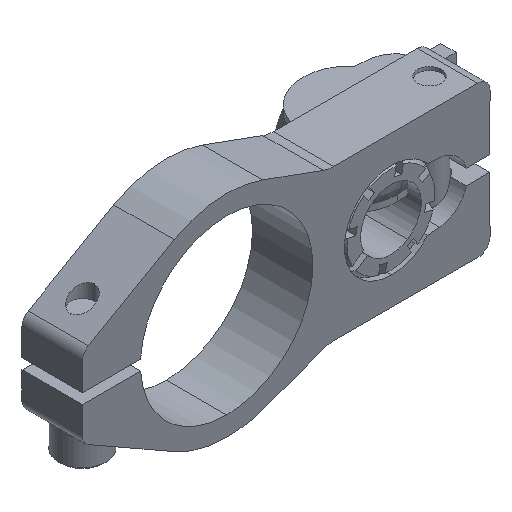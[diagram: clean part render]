
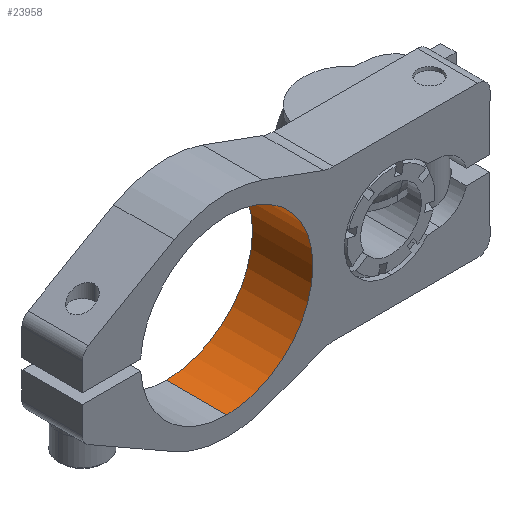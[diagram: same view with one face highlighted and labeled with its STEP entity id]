
A CAD part, isometric view. The second image highlights one B-rep face of the part: STEP entity #23958.
In plain terms, the highlighted cylindrical face has radius 18.136 mm (diameter 36.271 mm), a partial arc.
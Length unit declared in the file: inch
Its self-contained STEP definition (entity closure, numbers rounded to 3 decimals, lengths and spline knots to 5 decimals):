
#1736 = LINE ( 'NONE', #23838, #1738 ) ;
#1738 = VECTOR ( 'NONE', #23840, 39.37008 ) ;
#1742 = LINE ( 'NONE', #23857, #1744 ) ;
#1743 = CIRCLE ( 'NONE', #27964, 0.714 ) ;
#1744 = VECTOR ( 'NONE', #23859, 39.37008 ) ;
#1745 = CIRCLE ( 'NONE', #27965, 0.714 ) ;
#3833 = AXIS2_PLACEMENT_3D ( 'NONE', #15753, #15754, #15755 ) ;
#9316 = EDGE_CURVE ( 'NONE', #22849, #22851, #1736, .T. ) ;
#9319 = EDGE_CURVE ( 'NONE', #22853, #22849, #1743, .T. ) ;
#9320 = EDGE_CURVE ( 'NONE', #22853, #22854, #1742, .T. ) ;
#9321 = EDGE_CURVE ( 'NONE', #22854, #22851, #1745, .T. ) ;
#15066 = FACE_OUTER_BOUND ( 'NONE', #25257, .T. ) ;
#15067 = CYLINDRICAL_SURFACE ( 'NONE', #3833, 0.714 ) ;
#15753 = CARTESIAN_POINT ( 'NONE',  ( -3.70744, 0.5, 0. ) ) ;
#15754 = DIRECTION ( 'NONE',  ( 0., -1., 0. ) ) ;
#15755 = DIRECTION ( 'NONE',  ( 0., 0., -1. ) ) ;
#20872 = CARTESIAN_POINT ( 'NONE',  ( -3.70744, 0.5, 0.714 ) ) ;
#20874 = CARTESIAN_POINT ( 'NONE',  ( -3.70744, 0., 0.714 ) ) ;
#20876 = CARTESIAN_POINT ( 'NONE',  ( -3.70744, 0.5, -0.714 ) ) ;
#20877 = CARTESIAN_POINT ( 'NONE',  ( -3.70744, 0., -0.714 ) ) ;
#22849 = VERTEX_POINT ( 'NONE', #20872 ) ;
#22851 = VERTEX_POINT ( 'NONE', #20874 ) ;
#22853 = VERTEX_POINT ( 'NONE', #20876 ) ;
#22854 = VERTEX_POINT ( 'NONE', #20877 ) ;
#23838 = CARTESIAN_POINT ( 'NONE',  ( -3.70744, 0.5, 0.714 ) ) ;
#23840 = DIRECTION ( 'NONE',  ( 0., -1., 0. ) ) ;
#23852 = CARTESIAN_POINT ( 'NONE',  ( -3.70744, 0.5, 0. ) ) ;
#23853 = DIRECTION ( 'NONE',  ( 0., -1., 0. ) ) ;
#23855 = DIRECTION ( 'NONE',  ( 0., 0., 1. ) ) ;
#23857 = CARTESIAN_POINT ( 'NONE',  ( -3.70744, 0.5, -0.714 ) ) ;
#23859 = DIRECTION ( 'NONE',  ( 0., -1., 0. ) ) ;
#23861 = CARTESIAN_POINT ( 'NONE',  ( -3.70744, 0., 0. ) ) ;
#23863 = DIRECTION ( 'NONE',  ( 0., -1., 0. ) ) ;
#23864 = DIRECTION ( 'NONE',  ( 0., 0., 1. ) ) ;
#23958 = ADVANCED_FACE ( 'NONE', ( #15066 ), #15067, .F. ) ;
#24427 = ORIENTED_EDGE ( 'NONE', *, *, #9316, .F. ) ;
#24429 = ORIENTED_EDGE ( 'NONE', *, *, #9319, .F. ) ;
#24431 = ORIENTED_EDGE ( 'NONE', *, *, #9320, .T. ) ;
#24433 = ORIENTED_EDGE ( 'NONE', *, *, #9321, .T. ) ;
#25257 = EDGE_LOOP ( 'NONE', ( #24427, #24429, #24431, #24433 ) ) ;
#27964 = AXIS2_PLACEMENT_3D ( 'NONE', #23852, #23853, #23855 ) ;
#27965 = AXIS2_PLACEMENT_3D ( 'NONE', #23861, #23863, #23864 ) ;
